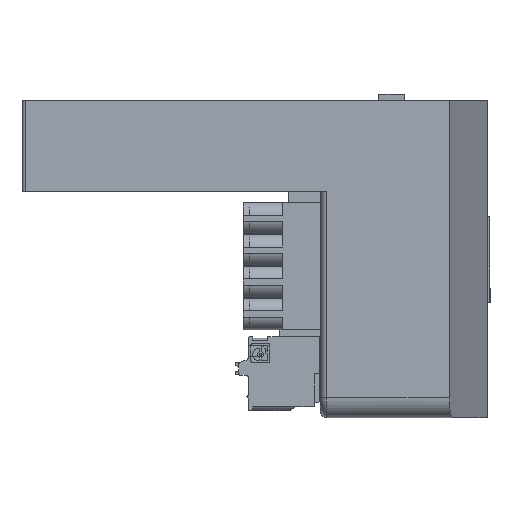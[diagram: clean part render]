
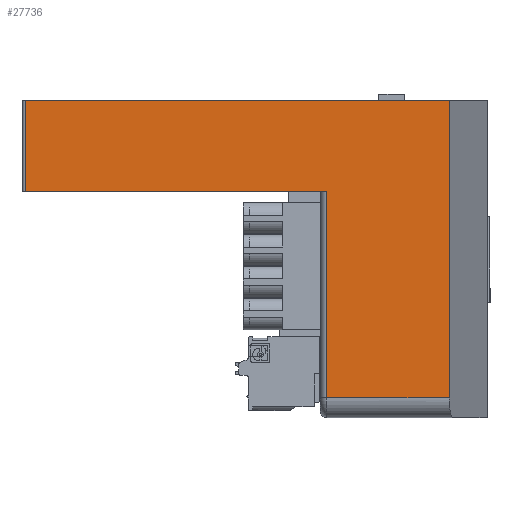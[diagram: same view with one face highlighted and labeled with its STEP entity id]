
A CAD part, front view. The second image highlights one B-rep face of the part: STEP entity #27736.
In plain terms, the highlighted planar face has unit normal (0, -1, 0).
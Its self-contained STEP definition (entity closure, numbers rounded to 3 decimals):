
#8554=CARTESIAN_POINT('',(68.0,0.0,3.2));
#8555=VERTEX_POINT('',#8554);
#8579=CARTESIAN_POINT('',(68.0,0.0,50.5));
#8580=VERTEX_POINT('',#8579);
#8587=CARTESIAN_POINT('',(68.0,0.0,3.2));
#8588=DIRECTION('',(0.0,0.0,1.0));
#8589=VECTOR('',#8588,47.3);
#8590=LINE('',#8587,#8589);
#8591=EDGE_CURVE('',#8555,#8580,#8590,.T.);
#11522=CARTESIAN_POINT('',(0.5,0.0,36.));
#11523=VERTEX_POINT('',#11522);
#11617=CARTESIAN_POINT('',(48.5,0.0,36.));
#11618=VERTEX_POINT('',#11617);
#11626=CARTESIAN_POINT('',(0.5,0.0,36.));
#11627=DIRECTION('',(1.0,0.0,0.0));
#11628=VECTOR('',#11627,48.0);
#11629=LINE('',#11626,#11628);
#11630=EDGE_CURVE('',#11523,#11618,#11629,.T.);
#27686=CARTESIAN_POINT('',(48.5,0.0,3.2));
#27687=VERTEX_POINT('',#27686);
#27697=CARTESIAN_POINT('',(68.0,0.0,3.2));
#27698=DIRECTION('',(-1.0,0.0,0.0));
#27699=VECTOR('',#27698,19.5);
#27700=LINE('',#27697,#27699);
#27701=EDGE_CURVE('',#8555,#27687,#27700,.T.);
#27706=CARTESIAN_POINT('',(68.0,0.0,0.0));
#27707=DIRECTION('',(0.0,-1.0,0.0));
#27708=DIRECTION('',(0.0,0.0,-1.0));
#27709=AXIS2_PLACEMENT_3D('',#27706,#27707,#27708);
#27710=PLANE('',#27709);
#27711=CARTESIAN_POINT('',(0.5,0.0,50.5));
#27712=VERTEX_POINT('',#27711);
#27713=CARTESIAN_POINT('',(0.5,0.0,36.));
#27714=DIRECTION('',(0.0,0.0,1.0));
#27715=VECTOR('',#27714,14.5);
#27716=LINE('',#27713,#27715);
#27717=EDGE_CURVE('',#11523,#27712,#27716,.T.);
#27718=ORIENTED_EDGE('',*,*,#27717,.F.);
#27719=ORIENTED_EDGE('',*,*,#11630,.T.);
#27720=CARTESIAN_POINT('',(48.5,0.0,3.2));
#27721=DIRECTION('',(0.0,0.0,1.0));
#27722=VECTOR('',#27721,32.8);
#27723=LINE('',#27720,#27722);
#27724=EDGE_CURVE('',#27687,#11618,#27723,.T.);
#27725=ORIENTED_EDGE('',*,*,#27724,.F.);
#27726=ORIENTED_EDGE('',*,*,#27701,.F.);
#27727=ORIENTED_EDGE('',*,*,#8591,.T.);
#27728=CARTESIAN_POINT('',(68.0,0.0,50.5));
#27729=DIRECTION('',(-1.0,0.0,0.0));
#27730=VECTOR('',#27729,67.5);
#27731=LINE('',#27728,#27730);
#27732=EDGE_CURVE('',#8580,#27712,#27731,.T.);
#27733=ORIENTED_EDGE('',*,*,#27732,.T.);
#27734=EDGE_LOOP('',(#27718,#27719,#27725,#27726,#27727,#27733));
#27735=FACE_OUTER_BOUND('',#27734,.T.);
#27736=ADVANCED_FACE('',(#27735),#27710,.T.);
